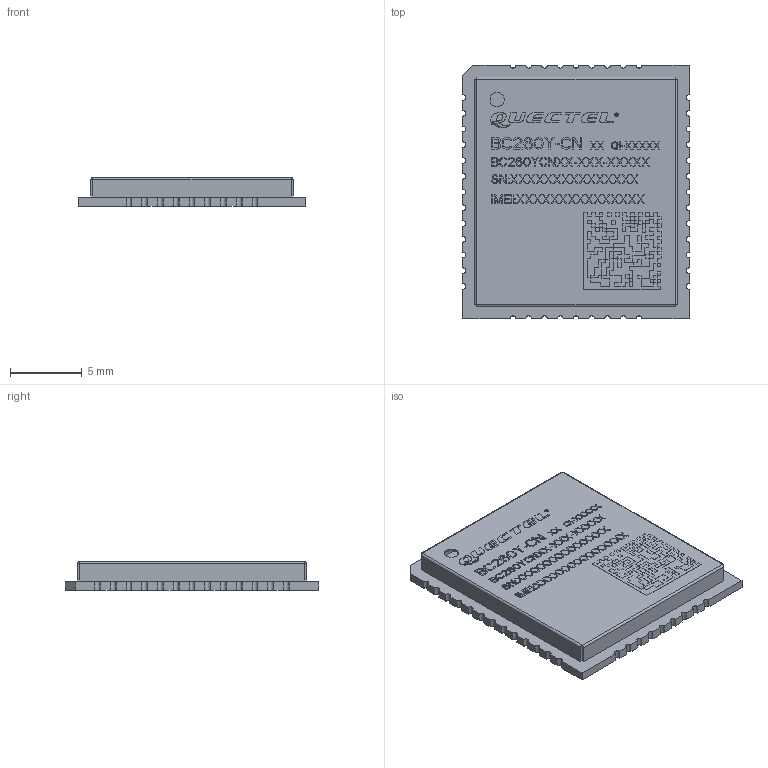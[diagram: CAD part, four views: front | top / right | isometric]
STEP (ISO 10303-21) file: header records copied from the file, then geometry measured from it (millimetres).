
FILE_DESCRIPTION((''),'2;1');
FILE_NAME('QUECTEL_BC260Y-CN_3D_DIMENSIONS_ASM','2020-04-16T',('rupert.zheng'),(''),'CREO PARAMETRIC BY PTC INC, 2014190','CREO PARAMETRIC BY PTC INC, 2014190','');
FILE_SCHEMA(('CONFIG_CONTROL_DESIGN'));
Products named in the file (3): BC260Y-CN_PCB_V1_1; BC260Y-CN_SHIELDING_COVER; QUECTEL_BC260Y-CN_3D_DIMENSIONS_ASM
Assembly tree (2 placements, depth 2):
  QUECTEL_BC260Y-CN_3D_DIMENSIONS_ASM
    BC260Y-CN_PCB_V1_1
    BC260Y-CN_SHIELDING_COVER
Bounding box: 15.8 x 17.7 x 2 mm (x, y, z)
Volume: 209.3 mm3; surface area: 1204.5 mm2
Topology: 2 solids, 2 shells, 2310 faces, 6406 edges, 4206 vertices
Faces by surface type: plane 2220, cylinder 50, extrusion 40
Entity records: 72569 total; most frequent: CARTESIAN_POINT 13449, ORIENTED_EDGE 12812, DIRECTION 11016, EDGE_CURVE 6406, VECTOR 6266, LINE 6226, VERTEX_POINT 4225, EDGE_LOOP 2437
